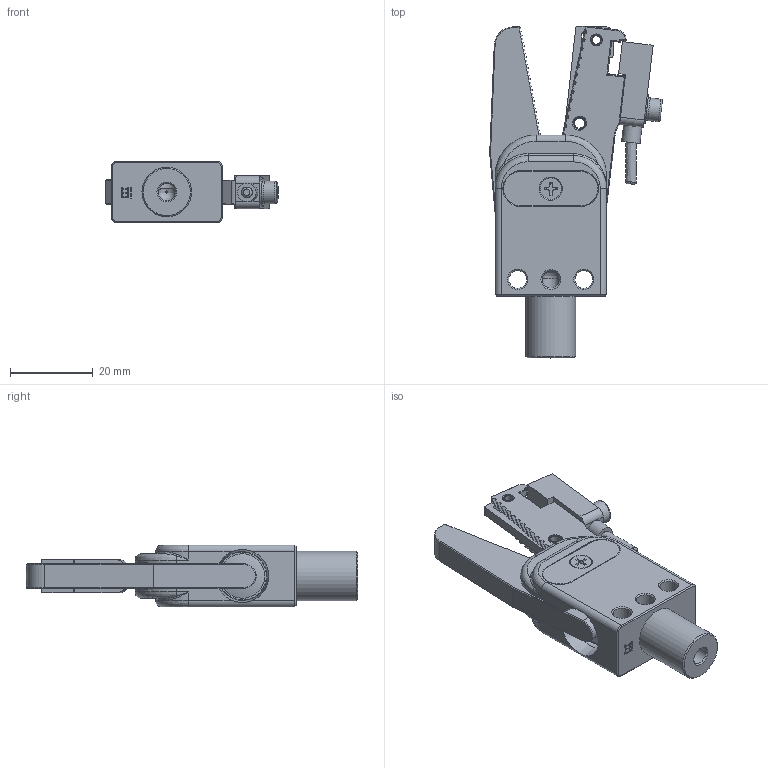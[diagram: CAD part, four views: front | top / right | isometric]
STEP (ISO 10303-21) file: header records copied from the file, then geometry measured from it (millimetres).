
FILE_DESCRIPTION(/* description */ (''),/* implementation_level */ '2;1');
FILE_NAME(/* name */ 'GR12M-12-CN.stp',/* time_stamp */ '2023-03-08T13:44:39+08:00',/* author */ (''),/* organization */ (''),/* preprocessor_version */ 'ST-DEVELOPER v16',/* originating_system */ 'SIEMENS PLM Software NX 10.0',/* authorisation */ '');
FILE_SCHEMA (('AUTOMOTIVE_DESIGN { 1 0 10303 214 3 1 1 1 }'));
Products named in the file (1): Admi115498B06ixx
Bounding box: 41.83 x 80.42 x 15 mm (x, y, z)
Volume: 17941.9 mm3; surface area: 15314.2 mm2
Topology: 22 solids, 22 shells, 1335 faces, 3180 edges, 1893 vertices
Faces by surface type: plane 1017, cylinder 133, cone 99, bspline 59, revolution 27
Full cylindrical faces by diameter (mm): 0.5 x1, 2.2 x2, 2.5 x4, 3 x24, 3.2 x2, 3.4 x2, 3.5 x1, 4.2 x2, 4.3 x3, 4.5 x1, 5.2 x2, 5.5 x2, 6.2 x2, 7 x3, 7.2 x2, 11.5 x2, 12 x6, 12.5 x2
Entity records: 51306 total; most frequent: CARTESIAN_POINT 18943, ORIENTED_EDGE 5944, DIRECTION 5662, EDGE_CURVE 2972, LINE 2331, VECTOR 2331, VERTEX_POINT 1838, AXIS2_PLACEMENT_3D 1652
